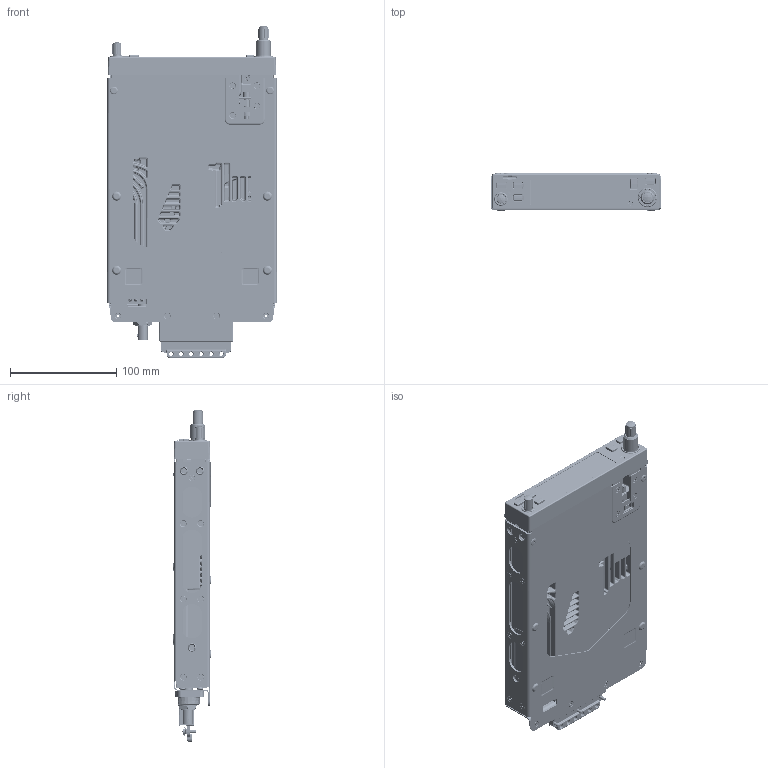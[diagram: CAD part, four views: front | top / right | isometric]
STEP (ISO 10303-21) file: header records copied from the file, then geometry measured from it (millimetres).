
FILE_DESCRIPTION (( 'STEP AP203' ), '1' );
FILE_NAME ('GTR205_011-05287-00_R[115-04497-00]_B[011-05691-00]_C[011-05779-10]_Rev1.STEP', '2024-02-07T14:16:48', ( '' ), ( '' ), 'SwSTEP 2.0', 'SolidWorks 2021', '' );
FILE_SCHEMA (( 'CONFIG_CONTROL_DESIGN' ));
Products named in the file (1): GTR205_011-05287-00_R[115-04497-00]_B[011-05691-00]_C[011-05779-10]_Rev1
Bounding box: 160.02 x 36.2 x 313.16 mm (x, y, z)
Volume: 1168342.9 mm3; surface area: 278771.4 mm2
Topology: 5 solids, 21 shells, 6376 faces, 15314 edges, 9189 vertices
Faces by surface type: cylinder 1977, plane 1792, bspline 995, torus 700, cone 660, sphere 252
Entity records: 217730 total; most frequent: CARTESIAN_POINT 76411, ORIENTED_EDGE 30170, DIRECTION 29346, EDGE_CURVE 15085, AXIS2_PLACEMENT_3D 11752, VERTEX_POINT 9181, EDGE_LOOP 6936, CIRCLE 6378
